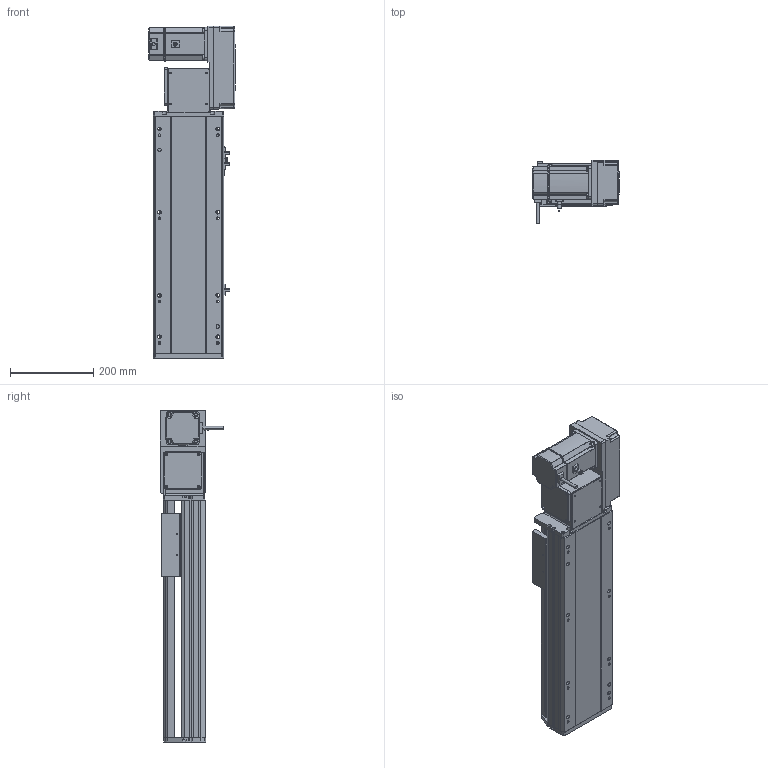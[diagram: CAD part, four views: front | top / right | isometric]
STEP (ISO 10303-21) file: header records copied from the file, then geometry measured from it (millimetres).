
FILE_DESCRIPTION (( 'STEP AP214' ), '1' );
FILE_NAME ('RTB17S-XX-300-R-M75-C4.STEP', '2025-12-12T01:29:39', ( '' ), ( '' ), 'SwSTEP 2.0', 'SolidWorks 2018', '' );
FILE_SCHEMA (( 'AUTOMOTIVE_DESIGN' ));
Length unit declared in the file: millimetre
Products named in the file (15): RTB17S-XX-300-R-M75-C4; RTB22S-GY-005P^RTB17S-R-々湍釱蚾饜-750W_RTB17S-XX-XX-R-M75-C4; RTB17S-L-004-賑釱^RTB17S-賑釱_RTB17S-XX-XX-R-M75-C4; EE672^RTB17S-XX-XX-R-M75-C4; RTB17S-R-々湍釱蚾饜-750W^RTB17S-XX-XX-R-M75-C4; RTB22S-GY-008-M75--萇儂啣^RTB17S-R-々湍釱蚾饜-750W_RTB17S-XX-XX-R-M75-C4; RTB22S-GY-017P^RTB17S-R-々湍釱蚾饜-750W_RTB17S-XX-XX-R-M75-C4; 750W萇儂^RTB17S-XX-XX-R-M75-C4; RTB17S-L-007奻裔^RTB17S-XX-XX-R-M75-C4; RTB22S-GY-018P^RTB17S-R-々湍釱蚾饜-750W_RTB17S-XX-XX-R-M75-C4; RTB17S-L-014-T20-P75--々湍釱^RTB17S-R-々湍釱蚾饜-750W_RTB17S-XX-XX-R-M75-C4; RTB17S-L-001-耜醱啣^RTB17S-XX-XX-R-M75-C4; RTH13-BL-012覜茼え俋离^RTB17S-賑釱_RTB17S-XX-XX-R-M75-C4; RTB17-R-011菁釱^RTB17S-XX-XX-R-M75-C4; RTB17S-賑釱^RTB17S-XX-XX-R-M75-C4
Assembly tree (17 placements, depth 3):
  RTB17S-XX-300-R-M75-C4
    RTB17-R-011菁釱^RTB17S-XX-XX-R-M75-C4
    EE672^RTB17S-XX-XX-R-M75-C4  x3
    RTB17S-L-001-耜醱啣^RTB17S-XX-XX-R-M75-C4
    RTB17S-賑釱^RTB17S-XX-XX-R-M75-C4
      RTB17S-L-004-賑釱^RTB17S-賑釱_RTB17S-XX-XX-R-M75-C4
      RTH13-BL-012覜茼え俋离^RTB17S-賑釱_RTB17S-XX-XX-R-M75-C4
    RTB17S-L-007奻裔^RTB17S-XX-XX-R-M75-C4
    750W萇儂^RTB17S-XX-XX-R-M75-C4
    RTB17S-R-々湍釱蚾饜-750W^RTB17S-XX-XX-R-M75-C4
      RTB17S-L-014-T20-P75--々湍釱^RTB17S-R-々湍釱蚾饜-750W_RTB17S-XX-XX-R-M75-C4
      RTB22S-GY-005P^RTB17S-R-々湍釱蚾饜-750W_RTB17S-XX-XX-R-M75-C4
      RTB22S-GY-017P^RTB17S-R-々湍釱蚾饜-750W_RTB17S-XX-XX-R-M75-C4  x2
      RTB22S-GY-008-M75--萇儂啣^RTB17S-R-々湍釱蚾饜-750W_RTB17S-XX-XX-R-M75-C4
      RTB22S-GY-018P^RTB17S-R-々湍釱蚾饜-750W_RTB17S-XX-XX-R-M75-C4
Bounding box: 207.4 x 152.7 x 799 mm (x, y, z)
Volume: 7822706.8 mm3; surface area: 1211987.9 mm2
Topology: 17 solids, 17 shells, 2041 faces, 5620 edges, 3626 vertices
Faces by surface type: plane 964, cylinder 661, bspline 294, cone 110, sphere 8, torus 4
Entity records: 55798 total; most frequent: CARTESIAN_POINT 16284, ORIENTED_EDGE 8084, DIRECTION 7592, EDGE_CURVE 4042, AXIS2_PLACEMENT_3D 2646, VERTEX_POINT 2630, LINE 2300, VECTOR 2300
